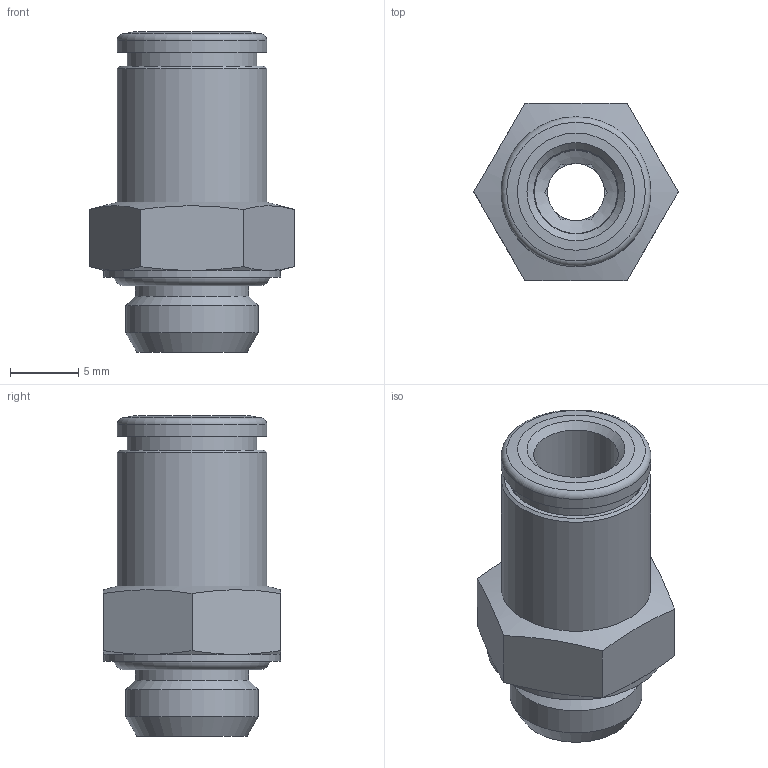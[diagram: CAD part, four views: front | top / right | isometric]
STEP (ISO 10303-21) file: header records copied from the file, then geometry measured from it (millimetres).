
FILE_DESCRIPTION(/* description */ (''),/* implementation_level */ '2;1');
FILE_NAME(/* name */ '200107-ES_STX01_6_G18_28.04.16',/* time_stamp */ '2016-04-28T11:14:15+02:00',/* author */ (''),/* organization */ (''),/* preprocessor_version */ 'ST-DEVELOPER v14',/* originating_system */ 'HiCAD 2013 1802.4 Build 509',/* authorisation */ '');
FILE_SCHEMA (('AUTOMOTIVE_DESIGN { 1 0 10303 214 1 1 1 1 }'));
Length unit declared in the file: millimetre
Products named in the file (4): Root; 001_000X; R200107-ES-i1; DR6-1_NEU
Assembly tree (3 placements, depth 2):
  Root
    001_000X
    R200107-ES-i1
    DR6-1_NEU
Bounding box: 15.01 x 13 x 23.5 mm (x, y, z)
Volume: 1540.2 mm3; surface area: 2187 mm2
Topology: 3 solids, 3 shells, 67 faces, 154 edges, 95 vertices
Faces by surface type: plane 32, cone 19, cylinder 12, torus 4
Full cylindrical faces by diameter (mm): 4.2 x1, 6.1 x1, 6.2 x1, 8.3 x2, 9 x1, 9.5 x1, 9.6 x1, 9.728 x1, 11 x2, 13 x1
Entity records: 3027 total; most frequent: DIRECTION 346, CARTESIAN_POINT 279, PRESENTATION_STYLE_ASSIGNMENT 247, OVER_RIDING_STYLED_ITEM 244, COLOUR_RGB 240, DRAUGHTING_PRE_DEFINED_CURVE_FONT 236, CURVE_STYLE 236, ORIENTED_EDGE 236
